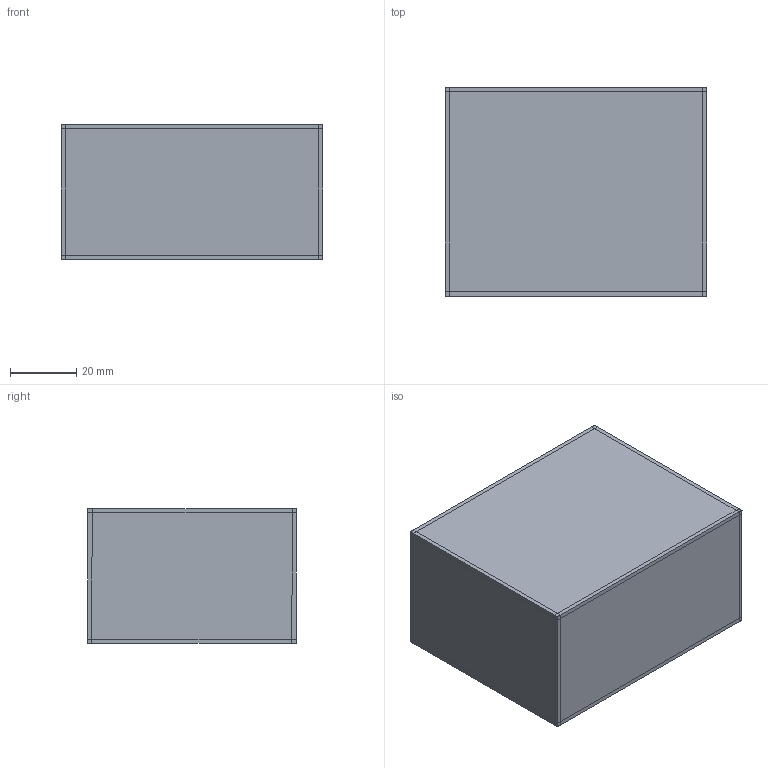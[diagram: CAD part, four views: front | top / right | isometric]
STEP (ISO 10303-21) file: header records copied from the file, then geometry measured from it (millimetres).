
FILE_DESCRIPTION(('HOOPS Exchange Step'),'2;1');
FILE_NAME('***.stp');
FILE_SCHEMA( ('AP242_MANAGED_MODEL_BASED_3D_ENGINEERING_MIM_LF {1 0 10303 442 1 1 4 }') );
Length unit declared in the file: inch
Products named in the file (7): TRNSBX_3X2.375X1.5_2; TRNSBX_3X2.375X1.5_3; TRNSBX_3X2.375X1.5_4; TRNSBX_3X2.375X1.5_5; TRNSBX_3X2.375X1.5_6; TRNSBX_3X2.375X1.5_7; TRNSBX_3X2.375X1.5
Assembly tree (6 placements, depth 2):
  TRNSBX_3X2.375X1.5
    TRNSBX_3X2.375X1.5_2
    TRNSBX_3X2.375X1.5_3
    TRNSBX_3X2.375X1.5_4
    TRNSBX_3X2.375X1.5_5
    TRNSBX_3X2.375X1.5_6
    TRNSBX_3X2.375X1.5_7
Bounding box: 78.74 x 62.87 x 40.65 mm (x, y, z)
Volume: 27190.2 mm3; surface area: 44670.9 mm2
Topology: 6 solids, 6 shells, 36 faces, 72 edges, 48 vertices
Faces by surface type: plane 36
Entity records: 1177 total; most frequent: DIRECTION 172, CARTESIAN_POINT 170, ORIENTED_EDGE 144, VECTOR 72, LINE 72, EDGE_CURVE 72, AXIS2_PLACEMENT_3D 50, VERTEX_POINT 48
